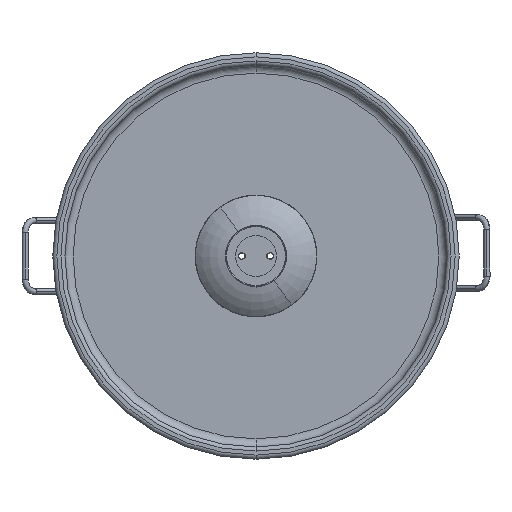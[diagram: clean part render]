
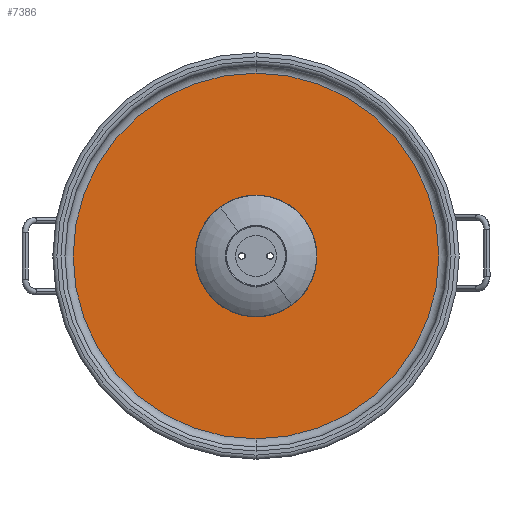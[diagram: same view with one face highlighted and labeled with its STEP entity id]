
A CAD part, front view. The second image highlights one B-rep face of the part: STEP entity #7386.
In plain terms, the highlighted planar face has unit normal (0, -1, 0).
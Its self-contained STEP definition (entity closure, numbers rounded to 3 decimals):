
#489 = VERTEX_POINT ( 'NONE', #4243 ) ;
#623 = CARTESIAN_POINT ( 'NONE',  ( 0., -3., 0. ) ) ;
#776 = DIRECTION ( 'NONE',  ( 0., 1., 0. ) ) ;
#878 = EDGE_CURVE ( 'NONE', #489, #7765, #7335, .T. ) ;
#996 = CARTESIAN_POINT ( 'NONE',  ( 0., -3., 0. ) ) ;
#1015 = ORIENTED_EDGE ( 'NONE', *, *, #878, .T. ) ;
#1833 = DIRECTION ( 'NONE',  ( 0., -1., 0. ) ) ;
#2206 = FACE_BOUND ( 'NONE', #5757, .T. ) ;
#2261 = CARTESIAN_POINT ( 'NONE',  ( 0., -3., 10.25 ) ) ;
#2315 = EDGE_CURVE ( 'NONE', #7765, #489, #7075, .T. ) ;
#2668 = CARTESIAN_POINT ( 'NONE',  ( 0., -3., 0. ) ) ;
#2671 = DIRECTION ( 'NONE',  ( 0., -1., 0. ) ) ;
#3121 = CARTESIAN_POINT ( 'NONE',  ( 0., -3., -10.25 ) ) ;
#3203 = DIRECTION ( 'NONE',  ( 0., 0., -1. ) ) ;
#3432 = CARTESIAN_POINT ( 'NONE',  ( 0., -3., 45. ) ) ;
#3544 = AXIS2_PLACEMENT_3D ( 'NONE', #996, #3848, #7423 ) ;
#3761 = CARTESIAN_POINT ( 'NONE',  ( -45., -3., 0. ) ) ;
#3848 = DIRECTION ( 'NONE',  ( 0., -1., 0. ) ) ;
#3899 = CARTESIAN_POINT ( 'NONE',  ( 0., -3., 0. ) ) ;
#4043 = VERTEX_POINT ( 'NONE', #3121 ) ;
#4243 = CARTESIAN_POINT ( 'NONE',  ( 0., -3., -45. ) ) ;
#4317 = AXIS2_PLACEMENT_3D ( 'NONE', #623, #2671, #8577 ) ;
#4466 = PLANE ( 'NONE',  #7113 ) ;
#4633 = DIRECTION ( 'NONE',  ( 0., 0., -1. ) ) ;
#4729 = ORIENTED_EDGE ( 'NONE', *, *, #7674, .F. ) ;
#4932 = VERTEX_POINT ( 'NONE', #2261 ) ;
#5079 = DIRECTION ( 'NONE',  ( 0., 0., 1. ) ) ;
#5757 = EDGE_LOOP ( 'NONE', ( #7191, #4729 ) ) ;
#5832 = ORIENTED_EDGE ( 'NONE', *, *, #2315, .T. ) ;
#6402 = CIRCLE ( 'NONE', #4317, 10.25 ) ;
#7075 = CIRCLE ( 'NONE', #8104, 45. ) ;
#7113 = AXIS2_PLACEMENT_3D ( 'NONE', #3761, #776, #5079 ) ;
#7191 = ORIENTED_EDGE ( 'NONE', *, *, #8612, .F. ) ;
#7335 = CIRCLE ( 'NONE', #9138, 45. ) ;
#7386 = ADVANCED_FACE ( 'NONE', ( #2206, #7979 ), #4466, .F. ) ;
#7423 = DIRECTION ( 'NONE',  ( 0., 0., -1. ) ) ;
#7674 = EDGE_CURVE ( 'NONE', #4932, #4043, #8910, .T. ) ;
#7765 = VERTEX_POINT ( 'NONE', #3432 ) ;
#7979 = FACE_OUTER_BOUND ( 'NONE', #8740, .T. ) ;
#8104 = AXIS2_PLACEMENT_3D ( 'NONE', #2668, #8206, #4633 ) ;
#8206 = DIRECTION ( 'NONE',  ( 0., -1., 0. ) ) ;
#8577 = DIRECTION ( 'NONE',  ( 0., 0., -1. ) ) ;
#8612 = EDGE_CURVE ( 'NONE', #4043, #4932, #6402, .T. ) ;
#8740 = EDGE_LOOP ( 'NONE', ( #1015, #5832 ) ) ;
#8910 = CIRCLE ( 'NONE', #3544, 10.25 ) ;
#9138 = AXIS2_PLACEMENT_3D ( 'NONE', #3899, #1833, #3203 ) ;
